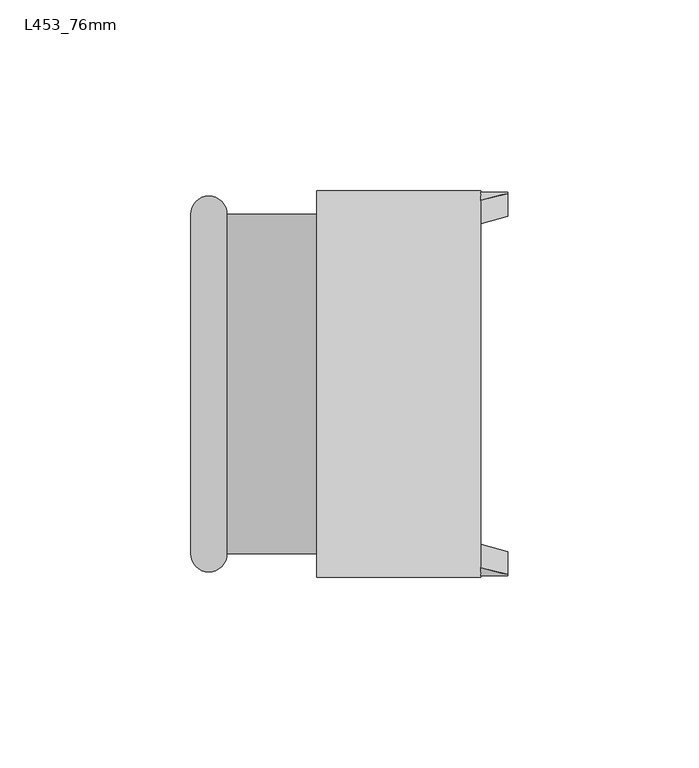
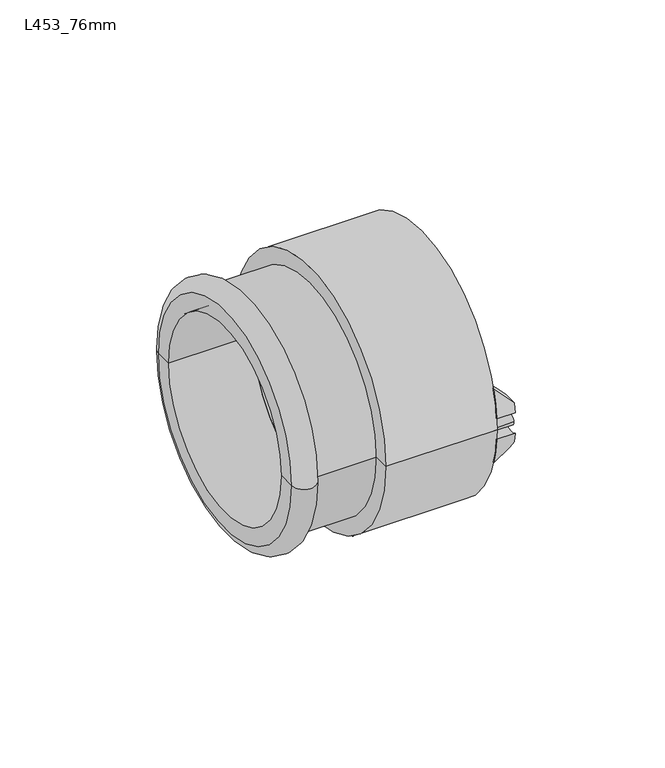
"""IFC4 building model written with IfcOpenShell, lengths in millimetres: pipe fitting geometry, Durapipe_PipeFitting_VulcatheneEnfusion_GlassAdaptor_L45 : L453_76mm."""

import ifcopenshell
import ifcopenshell.guid

model = None  # the IFC model being written
_history = None  # IfcOwnerHistory: only IFC2X3 demands one
_inside = {}  # id of a spatial element -> (the spatial element, [elements in it])
_under = {}  # id of a project, library or spatial element -> (it, [spatial elements below it])
_declared = {}  # id of a project -> (the project, [libraries it declares])
_typed = {}  # id of a type object -> (the type object, [elements of that type])
_made_of = {}  # id of a material, layer set ... -> (it, [elements and type objects made of it])


def new_model(schema):
    """Start an empty IFC model of exactly this schema.

    Asked for "IFC4X3", IfcOpenShell would pick the latest addendum, in which some entities
    have other attributes; the version numbers below select the first issue.
    IFC2X3 requires an IfcOwnerHistory on every rooted entity: one is made here for all.
    """
    global model, _history
    if schema == "IFC4X3":
        model = ifcopenshell.file(schema_version=(4, 3, 0, 0))
    else:
        model = ifcopenshell.file(schema=schema)
    _inside.clear()
    _under.clear()
    _declared.clear()
    _typed.clear()
    _made_of.clear()
    _history = None
    if model.schema == "IFC2X3":
        org = make("IfcOrganization", Name="unknown")
        user = make(
            "IfcPersonAndOrganization",
            ThePerson=make("IfcPerson", FamilyName="unknown"),
            TheOrganization=org,
        )
        app = make(
            "IfcApplication",
            ApplicationDeveloper=org,
            Version="unknown",
            ApplicationFullName="unknown",
            ApplicationIdentifier="unknown",
        )
        _history = make(
            "IfcOwnerHistory",
            OwningUser=user,
            OwningApplication=app,
            ChangeAction="ADDED",
            CreationDate=0,
        )
    return model


def make(cls, **values):
    """One entity of the class cls with the attributes given. An attribute that is None is left unset."""
    return model.create_entity(
        cls, **{name: value for name, value in values.items() if value is not None}
    )


def rooted(cls, **values):
    """An entity with a GlobalId (a new one), such as an element, a storey or a relation."""
    return make(cls, GlobalId=ifcopenshell.guid.new(), OwnerHistory=_history, **values)


def si_unit(unit_type, name, prefix=None):
    """IfcSIUnit, for example si_unit("LENGTHUNIT", "METRE", prefix="MILLI")."""
    return make("IfcSIUnit", UnitType=unit_type, Prefix=prefix, Name=name)


def assignment(units):
    """IfcUnitAssignment: the units of a project."""
    return None if units is None else make("IfcUnitAssignment", Units=units)


def point(xyz):
    """IfcCartesianPoint."""
    return None if xyz is None else make("IfcCartesianPoint", Coordinates=xyz)


def direction(xyz):
    """IfcDirection."""
    return None if xyz is None else make("IfcDirection", DirectionRatios=xyz)


def frame(location, z_axis=None, x_axis=None):
    """IfcAxis2Placement3D, a coordinate frame: its origin and axes. An axis left out is left unset."""
    return make(
        "IfcAxis2Placement3D",
        Location=point(location),
        Axis=direction(z_axis),
        RefDirection=direction(x_axis),
    )


def frame_2d(location, x_axis=None):
    """IfcAxis2Placement2D, a coordinate frame in the plane: its origin and x axis."""
    return make(
        "IfcAxis2Placement2D", Location=point(location), RefDirection=direction(x_axis)
    )


def origin():
    """The frame at (0, 0, 0) with its axes left unset."""
    return frame((0.0, 0.0, 0.0))


def place(relative_to, where):
    """IfcLocalPlacement: puts the frame where relative to a parent placement (None: the world)."""
    return make(
        "IfcLocalPlacement", PlacementRelTo=relative_to, RelativePlacement=where
    )


def context(
    kind, dimensions, precision=None, world=None, true_north=None, identifier=None
):
    """IfcGeometricRepresentationContext, for example the 3D "Model" context."""
    return make(
        "IfcGeometricRepresentationContext",
        ContextIdentifier=identifier,
        ContextType=kind,
        CoordinateSpaceDimension=dimensions,
        Precision=precision,
        WorldCoordinateSystem=world,
        TrueNorth=true_north,
    )


def project(units=None, contexts=None):
    """IfcProject with its units and contexts."""
    return rooted(
        "IfcProject",
        Name="project",
        RepresentationContexts=contexts,
        UnitsInContext=assignment(units),
    )


def spatial(cls, under=None, at=None, **own):
    """A site, building, storey or space (cls), placed at a placement, below another one or the project."""
    s = rooted(cls, ObjectPlacement=at, **own)
    if under is not None:
        _under.setdefault(under.id(), (under, []))[1].append(s)
    return s


def polyline(points):
    """IfcPolyline through the points."""
    return make("IfcPolyline", Points=[point(p) for p in points])


def circle_curve(where, radius):
    """IfcCircle in the frame where."""
    return make("IfcCircle", Position=where, Radius=radius)


def ellipse_curve(where, semi_axis1, semi_axis2):
    """IfcEllipse in the frame where."""
    return make(
        "IfcEllipse", Position=where, SemiAxis1=semi_axis1, SemiAxis2=semi_axis2
    )


def trimmed(basis, trim1, trim2, sense, master):
    """IfcTrimmedCurve: the piece of a basis curve between two trims."""
    return make(
        "IfcTrimmedCurve",
        BasisCurve=basis,
        Trim1=trim1,
        Trim2=trim2,
        SenseAgreement=sense,
        MasterRepresentation=master,
    )


def segment(curve, same_sense, transition):
    """IfcCompositeCurveSegment."""
    return make(
        "IfcCompositeCurveSegment",
        Transition=transition,
        SameSense=same_sense,
        ParentCurve=curve,
    )


def composite_curve(segments, self_intersect=None):
    """IfcCompositeCurve: segments joined end to end."""
    return make("IfcCompositeCurve", Segments=segments, SelfIntersect=self_intersect)


def outline(outer, holes=None, kind="AREA"):
    """IfcArbitraryClosedProfileDef: a profile drawn as a closed curve; with holes, ...WithVoids."""
    if holes is None:
        return make("IfcArbitraryClosedProfileDef", ProfileType=kind, OuterCurve=outer)
    return make(
        "IfcArbitraryProfileDefWithVoids",
        ProfileType=kind,
        OuterCurve=outer,
        InnerCurves=holes,
    )


def extrude(swept, where, along, depth):
    """IfcExtrudedAreaSolid: the profile swept, set in the frame where, extruded along a direction by depth."""
    return make(
        "IfcExtrudedAreaSolid",
        SweptArea=swept,
        Position=where,
        ExtrudedDirection=direction(along),
        Depth=depth,
    )


def shape(context_of_items, identifier, shape_type, items):
    """IfcShapeRepresentation: the items that make up one representation, for example the "Body"."""
    return make(
        "IfcShapeRepresentation",
        ContextOfItems=context_of_items,
        RepresentationIdentifier=identifier,
        RepresentationType=shape_type,
        Items=items,
    )


def source(mapping_origin, context_of_items, identifier, shape_type, items):
    """IfcRepresentationMap: a shape defined once, which mapped items show again and again."""
    return make(
        "IfcRepresentationMap",
        MappingOrigin=mapping_origin,
        MappedRepresentation=shape(context_of_items, identifier, shape_type, items),
    )


def transform(
    local_origin,
    x_axis=None,
    y_axis=None,
    z_axis=None,
    scale=None,
    scale2=None,
    scale3=None,
    uniform=True,
):
    """IfcCartesianTransformationOperator3D, or its non-uniform kind. x_axis, y_axis, z_axis: its Axis1, 2, 3."""
    if uniform:
        return make(
            "IfcCartesianTransformationOperator3D",
            Axis1=direction(x_axis),
            Axis2=direction(y_axis),
            LocalOrigin=point(local_origin),
            Scale=scale,
            Axis3=direction(z_axis),
        )
    return make(
        "IfcCartesianTransformationOperator3DnonUniform",
        Axis1=direction(x_axis),
        Axis2=direction(y_axis),
        LocalOrigin=point(local_origin),
        Scale=scale,
        Axis3=direction(z_axis),
        Scale2=scale2,
        Scale3=scale3,
    )


def mapped(mapping_source, mapping_target):
    """IfcMappedItem: shows the shape of a source again, moved by a transform."""
    return make(
        "IfcMappedItem", MappingSource=mapping_source, MappingTarget=mapping_target
    )


def made_of(thing, what):
    """Note that an element or type object is made of a material, layer set ...; save() writes the relation."""
    if what is not None:
        _made_of.setdefault(what.id(), (what, []))[1].append(thing)
    return thing


def element(
    cls,
    number,
    at=None,
    inside=None,
    cuts=None,
    type_object=None,
    material=None,
    context=None,
    identifier="Body",
    shape_type=None,
    held_by="IfcProductDefinitionShape",
    body=None,
    shapes=None,
    **own,
):
    """One element of the class cls, such as IfcWall. Its Tag is "e" and its number.

    at: its placement. inside: the storey or other place that contains it. cuts: it is an
    opening in that element (IfcRelVoidsElement). A single representation is given by context,
    identifier, shape_type and body (its items); several are given by shapes. held_by: the class
    of the entity that holds the representations. save() writes the other relations.
    """
    e = rooted(cls, Tag="e%d" % number, ObjectPlacement=at, **own)
    if body is not None:
        shapes = [shape(context, identifier, shape_type, body)]
    if shapes is not None:
        e.Representation = make(held_by, Representations=shapes)
    if inside is not None:
        _inside.setdefault(inside.id(), (inside, []))[1].append(e)
    if cuts is not None:
        rooted(
            "IfcRelVoidsElement", RelatingBuildingElement=cuts, RelatedOpeningElement=e
        )
    if type_object is not None:
        _typed.setdefault(type_object.id(), (type_object, []))[1].append(e)
    return made_of(e, material)


def aggregate(whole, parts):
    """IfcRelAggregates: a whole, such as a stair, and the parts it consists of."""
    return rooted("IfcRelAggregates", RelatingObject=whole, RelatedObjects=parts)


def save(model, path):
    """Write the relations noted so far, then the file.

    IfcRelAggregates (storeys below a building ...), IfcRelContainedInSpatialStructure (elements
    in a storey), IfcRelDefinesByType, IfcRelAssociatesMaterial and IfcRelDeclares: one each for
    every whole, place, type object, material and project.
    """
    for whole, parts in _under.values():
        aggregate(whole, parts)
    for where, things in _inside.values():
        rooted(
            "IfcRelContainedInSpatialStructure",
            RelatedElements=things,
            RelatingStructure=where,
        )
    for kind, things in _typed.values():
        rooted("IfcRelDefinesByType", RelatedObjects=things, RelatingType=kind)
    for what, things in _made_of.values():
        rooted("IfcRelAssociatesMaterial", RelatedObjects=things, RelatingMaterial=what)
    for by, libraries in _declared.values():
        rooted("IfcRelDeclares", RelatingContext=by, RelatedDefinitions=libraries)
    model.write(path)


def plane_surface(at):
    """IfcPlane: the flat surface through the origin of the frame at, square to its z axis."""
    return make("IfcPlane", Position=at)


def cylinder_surface(at, radius):
    """IfcCylindricalSurface: all points at the distance radius from the z axis of the frame at."""
    return make("IfcCylindricalSurface", Position=at, Radius=radius)


def revolved_surface(curve, axis_point, axis_direction):
    """IfcSurfaceOfRevolution: the curve turned about the line through axis_point along axis_direction."""
    return make(
        "IfcSurfaceOfRevolution",
        SweptCurve=make("IfcArbitraryOpenProfileDef", ProfileType="CURVE", Curve=curve),
        AxisPosition=make("IfcAxis1Placement", Location=point(axis_point), Axis=direction(axis_direction)),
    )


def advanced_brep(points, edges, surfaces, faces):
    """IfcAdvancedBrep: a solid bounded by faces that lie on surfaces and meet in shared edges.

    An edge is (start, end): straight between two places in points (the first is 0);
    or (start, end, curve); or (start, end, curve, False) where it runs against its curve.
    A face is (place in surfaces, loops), or (place, loops, False) where it looks against
    its surface's normal. A loop lists edges by number (the first is 1), with a minus sign
    where the edge is run from its end to its start. The first loop is the outer one.
    """
    corners = [point(p) for p in points]
    vertices = [make("IfcVertexPoint", VertexGeometry=c) for c in corners]
    made = []
    for start, end, *more in edges:
        made.append(
            make(
                "IfcEdgeCurve",
                EdgeStart=vertices[start],
                EdgeEnd=vertices[end],
                EdgeGeometry=more[0] if more else make("IfcPolyline", Points=[corners[start], corners[end]]),
                SameSense=more[1] if len(more) > 1 else True,
            )
        )
    hull = []
    for where, loops, *sense in faces:
        bounds = []
        for j, loop in enumerate(loops):
            ring = [make("IfcOrientedEdge", EdgeElement=made[abs(k) - 1], Orientation=k > 0) for k in loop]
            bounds.append(
                make(
                    "IfcFaceOuterBound" if j == 0 else "IfcFaceBound",
                    Bound=make("IfcEdgeLoop", EdgeList=ring),
                    Orientation=True,
                )
            )
        hull.append(make("IfcAdvancedFace", Bounds=bounds, FaceSurface=surfaces[where], SameSense=sense[0] if sense else True))
    return make("IfcAdvancedBrep", Outer=make("IfcClosedShell", CfsFaces=hull))


def l453_76mm_ac4e316f(model_context):
    return source(origin(), model_context, "Body", "SolidModel", [
        advanced_brep(
        [(45.1, -44.4771742, -3.9247261), (45.1, -50.3271742, -4.1743906), (45.1, -49.8718999, -7.94), (45.1, -43.9383534, -7.94), (38.0, -48.2208461, -15.0), (38.0, -50.3271742, -4.1743906), (38.0, -44.4771742, -3.9247261), (38.0, -42.0549938, -15.0)],
        [
            (0, 1, circle_curve(frame((45.1, -47.575, 0.0), z_axis=(-1.0, 0.0, 0.0), x_axis=(0.0, 1.0, 0.0)), 5.0)),
            (1, 2, circle_curve(frame((45.1, 0.0, 0.0), z_axis=(1.0, 0.0, 0.0), x_axis=(0.0, 1.0, 0.0)), 50.5)),
            (2, 3),
            (3, 0, circle_curve(frame((45.1, 0.0, 0.0), z_axis=(-1.0, 0.0, 0.0), x_axis=(0.0, 1.0, 0.0)), 44.65)),
            (4, 5, circle_curve(frame((38.0, 0.0, 0.0), z_axis=(-1.0, 0.0, 0.0), x_axis=(0.0, 1.0, 0.0)), 50.5)),
            (5, 6, circle_curve(frame((38.0, -47.575, 0.0), z_axis=(1.0, 0.0, 0.0), x_axis=(0.0, 1.0, 0.0)), 5.0)),
            (6, 7, circle_curve(frame((38.0, 0.0, 0.0), z_axis=(1.0, 0.0, 0.0), x_axis=(0.0, 1.0, 0.0)), 44.65)),
            (7, 4),
            (6, 0),
            (3, 7, ellipse_curve(frame((53.0849858, 0.0, 0.0), z_axis=(0.705106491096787, 0.0, -0.7091014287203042), x_axis=(-0.7091014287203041, 0.0, -0.705106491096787)), 63.3237682, 44.65)),
            (4, 2, ellipse_curve(frame((53.0849858, 0.0, 0.0), z_axis=(-0.705106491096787, 0.0, 0.7091014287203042), x_axis=(0.7091014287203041, 0.0, 0.705106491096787)), 71.6203873, 50.5)),
            (1, 5),
        ],
        [
            plane_surface(frame((45.1, -48.2208461, -15.0), z_axis=(1.0, 0.0, 0.0), x_axis=(0.0, 1.0, 0.0))),
            plane_surface(frame((38.0, -48.2208461, -15.0), z_axis=(-1.0, 0.0, 0.0), x_axis=(0.0, -1.0, 0.0))),
            revolved_surface(polyline([(8.182011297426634, 44.65, 0.0), (97.98796030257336, 44.65, 0.0)]), (38.0, 0.0, 0.0), (-1.0, 0.0, 0.0)),
            cylinder_surface(frame((38.0, 0.0, 0.0), z_axis=(1.0, 0.0, 0.0), x_axis=(0.0, 1.0, 0.0)), 50.5),
            revolved_surface(polyline([(45.1, -42.575, 0.0), (38.0, -42.575, 0.0)]), (38.0, -47.575, 0.0), (1.0, 0.0, 0.0)),
            plane_surface(frame((38.0, 50.5, -15.0), z_axis=(0.705106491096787, 0.0, -0.7091014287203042), x_axis=(0.0, -1.0, 0.0))),
        ],
        [
            (0, [[1, 2, 3, 4]]),
            (1, [[5, 6, 7, 8]]),
            (2, [[-7, 9, -4, 10]]),
            (3, [[-5, 11, -2, 12]]),
            (4, [[-1, -9, -6, -12]]),
            (5, [[-3, -11, -8, -10]]),
        ],
    ),
        advanced_brep(
        [(45.1, -50.3271742, 4.1743906), (45.1, -44.4771742, 3.9247261), (45.1, -43.9383534, 7.94), (45.1, -49.8718999, 7.94), (38.0, -50.3271742, 4.1743906), (38.0, -48.2208461, 15.0), (38.0, -42.0549938, 15.0), (38.0, -44.4771742, 3.9247261)],
        [
            (0, 1, circle_curve(frame((45.1, -47.575, 0.0), z_axis=(-1.0, 0.0, 0.0), x_axis=(0.0, 1.0, 0.0)), 5.0)),
            (1, 2, circle_curve(frame((45.1, 0.0, 0.0), z_axis=(-1.0, 0.0, 0.0), x_axis=(0.0, 1.0, 0.0)), 44.65)),
            (2, 3),
            (3, 0, circle_curve(frame((45.1, 0.0, 0.0), z_axis=(1.0, 0.0, 0.0), x_axis=(0.0, 1.0, 0.0)), 50.5)),
            (4, 5, circle_curve(frame((38.0, 0.0, 0.0), z_axis=(-1.0, 0.0, 0.0), x_axis=(0.0, 1.0, 0.0)), 50.5)),
            (5, 6),
            (6, 7, circle_curve(frame((38.0, 0.0, 0.0), z_axis=(1.0, 0.0, 0.0), x_axis=(0.0, 1.0, 0.0)), 44.65)),
            (7, 4, circle_curve(frame((38.0, -47.575, 0.0), z_axis=(1.0, 0.0, 0.0), x_axis=(0.0, 1.0, 0.0)), 5.0)),
            (6, 2, ellipse_curve(frame((53.0849858, 0.0, 0.0), z_axis=(0.7051064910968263, 0.0, 0.7091014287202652), x_axis=(-0.7091014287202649, 0.0, 0.7051064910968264)), 63.3237682, 44.65)),
            (1, 7),
            (4, 0),
            (3, 5, ellipse_curve(frame((53.0849858, 0.0, 0.0), z_axis=(-0.7051064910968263, 0.0, -0.7091014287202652), x_axis=(0.7091014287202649, 0.0, -0.7051064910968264)), 71.6203873, 50.5)),
        ],
        [
            plane_surface(frame((45.1, -48.2208461, -15.0), z_axis=(1.0, 0.0, 0.0), x_axis=(0.0, 1.0, 0.0))),
            plane_surface(frame((38.0, -48.2208461, -15.0), z_axis=(-1.0, 0.0, 0.0), x_axis=(0.0, -1.0, 0.0))),
            revolved_surface(polyline([(8.182011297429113, 44.65, 0.0), (97.98796030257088, 44.65, 0.0)]), (38.0, 0.0, 0.0), (-1.0, 0.0, 0.0)),
            cylinder_surface(frame((38.0, 0.0, 0.0), z_axis=(1.0, 0.0, 0.0), x_axis=(0.0, 1.0, 0.0)), 50.5),
            revolved_surface(polyline([(45.1, -42.575, 0.0), (38.0, -42.575, 0.0)]), (38.0, -47.575, 0.0), (1.0, 0.0, 0.0)),
            plane_surface(frame((45.1, 50.5, 7.94), z_axis=(0.7051064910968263, 0.0, 0.7091014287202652), x_axis=(0.0, -1.0, 0.0))),
        ],
        [
            (0, [[1, 2, 3, 4]]),
            (1, [[5, 6, 7, 8]]),
            (2, [[-7, 9, -2, 10]]),
            (3, [[-5, 11, -4, 12]]),
            (4, [[-1, -11, -8, -10]]),
            (5, [[-3, -9, -6, -12]]),
        ],
    ),
        advanced_brep(
        [(45.1, 50.3271742, -4.1743906), (45.1, 44.4771742, -3.9247261), (45.1, 43.9383534, -7.94), (45.1, 49.8718999, -7.94), (38.0, 50.3271742, -4.1743906), (38.0, 48.2208461, -15.0), (38.0, 42.0549938, -15.0), (38.0, 44.4771742, -3.9247261)],
        [
            (0, 1, circle_curve(frame((45.1, 47.575, 0.0), z_axis=(-1.0, 0.0, 0.0), x_axis=(0.0, 1.0, 0.0)), 5.0)),
            (1, 2, circle_curve(frame((45.1, 0.0, 0.0), z_axis=(-1.0, 0.0, 0.0), x_axis=(0.0, 1.0, 0.0)), 44.65)),
            (2, 3),
            (3, 0, circle_curve(frame((45.1, 0.0, 0.0), z_axis=(1.0, 0.0, 0.0), x_axis=(0.0, 1.0, 0.0)), 50.5)),
            (4, 5, circle_curve(frame((38.0, 0.0, 0.0), z_axis=(-1.0, 0.0, 0.0), x_axis=(0.0, 1.0, 0.0)), 50.5)),
            (5, 6),
            (6, 7, circle_curve(frame((38.0, 0.0, 0.0), z_axis=(1.0, 0.0, 0.0), x_axis=(0.0, 1.0, 0.0)), 44.65)),
            (7, 4, circle_curve(frame((38.0, 47.575, 0.0), z_axis=(1.0, 0.0, 0.0), x_axis=(0.0, 1.0, 0.0)), 5.0)),
            (6, 2, ellipse_curve(frame((53.0849858, 0.0, 0.0), z_axis=(0.705106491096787, 0.0, -0.7091014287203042), x_axis=(-0.7091014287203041, 0.0, -0.705106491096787)), 63.3237682, 44.65)),
            (1, 7),
            (4, 0),
            (3, 5, ellipse_curve(frame((53.0849858, 0.0, 0.0), z_axis=(-0.705106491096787, 0.0, 0.7091014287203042), x_axis=(0.7091014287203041, 0.0, 0.705106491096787)), 71.6203873, 50.5)),
        ],
        [
            plane_surface(frame((45.1, -48.2208461, -15.0), z_axis=(1.0, 0.0, 0.0), x_axis=(0.0, 1.0, 0.0))),
            plane_surface(frame((38.0, -48.2208461, -15.0), z_axis=(-1.0, 0.0, 0.0), x_axis=(0.0, -1.0, 0.0))),
            revolved_surface(polyline([(8.182011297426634, 44.65, 0.0), (97.98796030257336, 44.65, 0.0)]), (38.0, 0.0, 0.0), (-1.0, 0.0, 0.0)),
            cylinder_surface(frame((38.0, 0.0, 0.0), z_axis=(1.0, 0.0, 0.0), x_axis=(0.0, 1.0, 0.0)), 50.5),
            revolved_surface(polyline([(45.1, 52.575, 0.0), (38.0, 52.575, 0.0)]), (38.0, 47.575, 0.0), (1.0, 0.0, 0.0)),
            plane_surface(frame((38.0, 50.5, -15.0), z_axis=(0.705106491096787, 0.0, -0.7091014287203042), x_axis=(0.0, -1.0, 0.0))),
        ],
        [
            (0, [[1, 2, 3, 4]]),
            (1, [[5, 6, 7, 8]]),
            (2, [[-7, 9, -2, 10]]),
            (3, [[-5, 11, -4, 12]]),
            (4, [[-1, -11, -8, -10]]),
            (5, [[-3, -9, -6, -12]]),
        ],
    ),
        advanced_brep(
        [(45.1, 44.4771742, 3.9247261), (45.1, 50.3271742, 4.1743906), (45.1, 49.8718999, 7.94), (45.1, 43.9383534, 7.94), (38.0, 48.2208461, 15.0), (38.0, 50.3271742, 4.1743906), (38.0, 44.4771742, 3.9247261), (38.0, 42.0549938, 15.0)],
        [
            (0, 1, circle_curve(frame((45.1, 47.575, 0.0), z_axis=(-1.0, 0.0, 0.0), x_axis=(0.0, 1.0, 0.0)), 5.0)),
            (1, 2, circle_curve(frame((45.1, 0.0, 0.0), z_axis=(1.0, 0.0, 0.0), x_axis=(0.0, 1.0, 0.0)), 50.5)),
            (2, 3),
            (3, 0, circle_curve(frame((45.1, 0.0, 0.0), z_axis=(-1.0, 0.0, 0.0), x_axis=(0.0, 1.0, 0.0)), 44.65)),
            (4, 5, circle_curve(frame((38.0, 0.0, 0.0), z_axis=(-1.0, 0.0, 0.0), x_axis=(0.0, 1.0, 0.0)), 50.5)),
            (5, 6, circle_curve(frame((38.0, 47.575, 0.0), z_axis=(1.0, 0.0, 0.0), x_axis=(0.0, 1.0, 0.0)), 5.0)),
            (6, 7, circle_curve(frame((38.0, 0.0, 0.0), z_axis=(1.0, 0.0, 0.0), x_axis=(0.0, 1.0, 0.0)), 44.65)),
            (7, 4),
            (6, 0),
            (3, 7, ellipse_curve(frame((53.0849858, 0.0, 0.0), z_axis=(0.7051064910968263, 0.0, 0.7091014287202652), x_axis=(-0.7091014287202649, 0.0, 0.7051064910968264)), 63.3237682, 44.65)),
            (4, 2, ellipse_curve(frame((53.0849858, 0.0, 0.0), z_axis=(-0.7051064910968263, 0.0, -0.7091014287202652), x_axis=(0.7091014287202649, 0.0, -0.7051064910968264)), 71.6203873, 50.5)),
            (1, 5),
        ],
        [
            plane_surface(frame((45.1, -48.2208461, -15.0), z_axis=(1.0, 0.0, 0.0), x_axis=(0.0, 1.0, 0.0))),
            plane_surface(frame((38.0, -48.2208461, -15.0), z_axis=(-1.0, 0.0, 0.0), x_axis=(0.0, -1.0, 0.0))),
            revolved_surface(polyline([(8.182011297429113, 44.65, 0.0), (97.98796030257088, 44.65, 0.0)]), (38.0, 0.0, 0.0), (-1.0, 0.0, 0.0)),
            cylinder_surface(frame((38.0, 0.0, 0.0), z_axis=(1.0, 0.0, 0.0), x_axis=(0.0, 1.0, 0.0)), 50.5),
            revolved_surface(polyline([(45.1, 52.575, 0.0), (38.0, 52.575, 0.0)]), (38.0, 47.575, 0.0), (1.0, 0.0, 0.0)),
            plane_surface(frame((45.1, 50.5, 7.94), z_axis=(0.7051064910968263, 0.0, 0.7091014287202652), x_axis=(0.0, -1.0, 0.0))),
        ],
        [
            (0, [[1, 2, 3, 4]]),
            (1, [[5, 6, 7, 8]]),
            (2, [[-7, 9, -4, 10]]),
            (3, [[-5, 11, -2, 12]]),
            (4, [[-1, -9, -6, -12]]),
            (5, [[-3, -11, -8, -10]]),
        ],
    ),
        extrude(outline(composite_curve([segment(trimmed(circle_curve(frame_2d((-47.575, 0.0)), 2.0), [point((-49.575, 0.0))], [point((-45.575, 0.0))], False, "CARTESIAN"), True, "CONTINUOUS"), segment(trimmed(circle_curve(frame_2d((-47.575, 0.0)), 2.0), [point((-45.575, 0.0))], [point((-49.575, 0.0))], False, "CARTESIAN"), True, "CONTINUOUS")], self_intersect=False)), frame((38.0, 0.0, 0.0), z_axis=(1.0, 0.0, 0.0), x_axis=(0.0, 1.0, 0.0)), (0.0, 0.0, 1.0), 7.1),
        extrude(outline(composite_curve([segment(trimmed(circle_curve(frame_2d((47.575, 0.0)), 2.0), [point((45.575, 0.0))], [point((49.575, 0.0))], False, "CARTESIAN"), True, "CONTINUOUS"), segment(trimmed(circle_curve(frame_2d((47.575, 0.0)), 2.0), [point((49.575, 0.0))], [point((45.575, 0.0))], False, "CARTESIAN"), True, "CONTINUOUS")], self_intersect=False)), frame((38.0, 0.0, 0.0), z_axis=(1.0, 0.0, 0.0), x_axis=(0.0, 1.0, 0.0)), (0.0, 0.0, 1.0), 7.1),
        advanced_brep(
        [(3.0, -38.0, 0.0), (3.0, 38.0, 0.0), (3.0, 44.5, 0.0), (3.0, -44.5, 0.0), (-5.0, -38.0, 0.0), (-5.0, 38.0, 0.0), (-5.0, -50.65, 0.0), (-5.0, 50.65, 0.0), (38.0, -50.65, 0.0), (38.0, 50.65, 0.0), (38.0, -44.5, 0.0), (38.0, 44.5, 0.0)],
        [
            (0, 1, circle_curve(frame((3.0, 0.0, 0.0), z_axis=(-1.0, 0.0, 0.0), x_axis=(0.0, 1.0, 0.0)), 38.0)),
            (1, 2),
            (2, 3, circle_curve(frame((3.0, 0.0, 0.0), z_axis=(1.0, 0.0, 0.0), x_axis=(0.0, 1.0, 0.0)), 44.5)),
            (3, 0),
            (1, 0, circle_curve(frame((3.0, 0.0, 0.0), z_axis=(-1.0, 0.0, 0.0), x_axis=(0.0, 1.0, 0.0)), 38.0)),
            (3, 2, circle_curve(frame((3.0, 0.0, 0.0), z_axis=(1.0, 0.0, 0.0), x_axis=(0.0, 1.0, 0.0)), 44.5)),
            (4, 5, circle_curve(frame((-5.0, 0.0, 0.0), z_axis=(-1.0, 0.0, 0.0), x_axis=(0.0, 1.0, 0.0)), 38.0)),
            (5, 1),
            (0, 4),
            (5, 4, circle_curve(frame((-5.0, 0.0, 0.0), z_axis=(-1.0, 0.0, 0.0), x_axis=(0.0, 1.0, 0.0)), 38.0)),
            (6, 7, circle_curve(frame((-5.0, 0.0, 0.0), z_axis=(-1.0, 0.0, 0.0), x_axis=(0.0, 1.0, 0.0)), 50.65)),
            (7, 5),
            (4, 6),
            (7, 6, circle_curve(frame((-5.0, 0.0, 0.0), z_axis=(-1.0, 0.0, 0.0), x_axis=(0.0, 1.0, 0.0)), 50.65)),
            (8, 9, circle_curve(frame((38.0, 0.0, 0.0), z_axis=(-1.0, 0.0, 0.0), x_axis=(0.0, 1.0, 0.0)), 50.65)),
            (9, 7),
            (6, 8),
            (9, 8, circle_curve(frame((38.0, 0.0, 0.0), z_axis=(-1.0, 0.0, 0.0), x_axis=(0.0, 1.0, 0.0)), 50.65)),
            (10, 11, circle_curve(frame((38.0, 0.0, 0.0), z_axis=(-1.0, 0.0, 0.0), x_axis=(0.0, 1.0, 0.0)), 44.5)),
            (11, 9),
            (8, 10),
            (11, 10, circle_curve(frame((38.0, 0.0, 0.0), z_axis=(-1.0, 0.0, 0.0), x_axis=(0.0, 1.0, 0.0)), 44.5)),
            (2, 11),
            (10, 3),
        ],
        [
            plane_surface(frame((3.0, 0.0, 0.0), z_axis=(1.0, 0.0, 0.0), x_axis=(0.0, 1.0, 0.0))),
            revolved_surface(polyline([(3.0, 38.0, 0.0), (-5.0, 38.0, 0.0)]), (2551.9826241, 0.0, 0.0), (1.0, 0.0, 0.0)),
            plane_surface(frame((-5.0, 0.0, 0.0), z_axis=(-1.0, 0.0, 0.0), x_axis=(0.0, 1.0, 0.0))),
            cylinder_surface(frame((2551.9826241, 0.0, 0.0), z_axis=(1.0, 0.0, 0.0), x_axis=(0.0, 1.0, 0.0)), 50.65),
            plane_surface(frame((38.0, 0.0, 0.0), z_axis=(1.0, 0.0, 0.0), x_axis=(0.0, 1.0, 0.0))),
            revolved_surface(polyline([(38.0, 44.5, 0.0), (3.0, 44.5, 0.0)]), (2551.9826241, 0.0, 0.0), (1.0, 0.0, 0.0)),
        ],
        [
            (0, [[1, 2, 3, 4]]),
            (0, [[5, -4, 6, -2]]),
            (1, [[7, 8, -1, 9]]),
            (1, [[10, -9, -5, -8]]),
            (2, [[11, 12, -7, 13]]),
            (2, [[14, -13, -10, -12]]),
            (3, [[15, 16, -11, 17]]),
            (3, [[18, -17, -14, -16]]),
            (4, [[19, 20, -15, 21]]),
            (4, [[22, -21, -18, -20]]),
            (5, [[-3, 23, -19, 24]]),
            (5, [[-6, -24, -22, -23]]),
        ],
    ),
        advanced_brep(
        [(3.0, -44.5, 0.0), (3.0, 44.5, 0.0), (3.0, 38.0, 0.0), (3.0, -38.0, 0.0), (-28.5, -44.5, 0.0), (-28.5, 44.5, 0.0), (-38.0, -38.0, 0.0), (-38.0, 38.0, 0.0), (-38.0, 44.5, 0.0), (-38.0, -44.5, 0.0)],
        [
            (0, 1, circle_curve(frame((3.0, 0.0, 0.0), z_axis=(1.0, 0.0, 0.0), x_axis=(0.0, 1.0, 0.0)), 44.5)),
            (1, 2),
            (2, 3, circle_curve(frame((3.0, 0.0, 0.0), z_axis=(-1.0, 0.0, 0.0), x_axis=(0.0, 1.0, 0.0)), 38.0)),
            (3, 0),
            (1, 0, circle_curve(frame((3.0, 0.0, 0.0), z_axis=(1.0, 0.0, 0.0), x_axis=(0.0, 1.0, 0.0)), 44.5)),
            (3, 2, circle_curve(frame((3.0, 0.0, 0.0), z_axis=(-1.0, 0.0, 0.0), x_axis=(0.0, 1.0, 0.0)), 38.0)),
            (4, 5, circle_curve(frame((-28.5, 0.0, 0.0), z_axis=(1.0, 0.0, 0.0), x_axis=(0.0, 1.0, 0.0)), 44.5)),
            (5, 1),
            (0, 4),
            (5, 4, circle_curve(frame((-28.5, 0.0, 0.0), z_axis=(1.0, 0.0, 0.0), x_axis=(0.0, 1.0, 0.0)), 44.5)),
            (6, 7, circle_curve(frame((-38.0, 0.0, 0.0), z_axis=(1.0, 0.0, 0.0), x_axis=(0.0, 1.0, 0.0)), 38.0)),
            (7, 8),
            (8, 9, circle_curve(frame((-38.0, 0.0, 0.0), z_axis=(-1.0, 0.0, 0.0), x_axis=(0.0, 1.0, 0.0)), 44.5)),
            (9, 6),
            (7, 6, circle_curve(frame((-38.0, 0.0, 0.0), z_axis=(1.0, 0.0, 0.0), x_axis=(0.0, 1.0, 0.0)), 38.0)),
            (9, 8, circle_curve(frame((-38.0, 0.0, 0.0), z_axis=(-1.0, 0.0, 0.0), x_axis=(0.0, 1.0, 0.0)), 44.5)),
            (2, 7),
            (6, 3),
            (8, 5, circle_curve(frame((-33.25, 44.5, 0.0), z_axis=(0.0, 0.0, -1.0), x_axis=(1.0, 0.0, 0.0)), 4.75)),
            (4, 9, circle_curve(frame((-33.25, -44.5, 0.0), z_axis=(0.0, 0.0, -1.0), x_axis=(1.0, 0.0, 0.0)), 4.75)),
        ],
        [
            plane_surface(frame((3.0, 0.0, 0.0), z_axis=(1.0, 0.0, 0.0), x_axis=(0.0, 1.0, 0.0))),
            cylinder_surface(frame((-19.7148603, 0.0, 0.0), z_axis=(-1.0, 0.0, 0.0), x_axis=(0.0, 1.0, 0.0)), 44.5),
            plane_surface(frame((-38.0, 0.0, 0.0), z_axis=(-1.0, 0.0, 0.0), x_axis=(0.0, 1.0, 0.0))),
            revolved_surface(polyline([(-38.0, 38.0, 0.0), (3.0, 38.0, 0.0)]), (-19.7148603, 0.0, 0.0), (-1.0, 0.0, 0.0)),
            revolved_surface(trimmed(ellipse_curve(frame((-33.25, 44.5, 0.0), z_axis=(0.0, 0.0, 1.0), x_axis=(1.0, 0.0, 0.0)), 4.75, 4.75), [point((-28.5, 44.5, 0.0))], [point((-38.0, 44.5, 0.0))], True, "CARTESIAN"), (-19.7148603, 0.0, 0.0), (-1.0, 0.0, 0.0)),
        ],
        [
            (0, [[1, 2, 3, 4]]),
            (0, [[5, -4, 6, -2]]),
            (1, [[7, 8, -1, 9]]),
            (1, [[10, -9, -5, -8]]),
            (2, [[11, 12, 13, 14]]),
            (2, [[15, -14, 16, -12]]),
            (3, [[-3, 17, -11, 18]]),
            (3, [[-6, -18, -15, -17]]),
            (4, [[-13, 19, -7, 20]]),
            (4, [[-16, -20, -10, -19]]),
        ],
    ),
    ])


if __name__ == "__main__":
    model = new_model("IFC4")
    model_context = context("Model", 3, world=origin())
    ifc_project = project(units=[si_unit("LENGTHUNIT", "METRE", prefix="MILLI")], contexts=[model_context])
    site = spatial("IfcSite", under=ifc_project)
    building = spatial("IfcBuilding", under=site)
    placement = place(None, origin())
    l453_76mm_shape = l453_76mm_ac4e316f(model_context)
    element("IfcPipeFitting", 1, ObjectType="Durapipe_PipeFitting_VulcatheneEnfusion_GlassAdaptor_L45 : L453_76mm", at=placement, inside=building, context=model_context, shape_type="MappedRepresentation", body=[
        mapped(l453_76mm_shape, transform((0.0, 0.0, 0.0), x_axis=(1.0, 0.0, 0.0), y_axis=(0.0, 1.0, 0.0), z_axis=(0.0, 0.0, 1.0))),
    ])
    save(model, "model.ifc")
